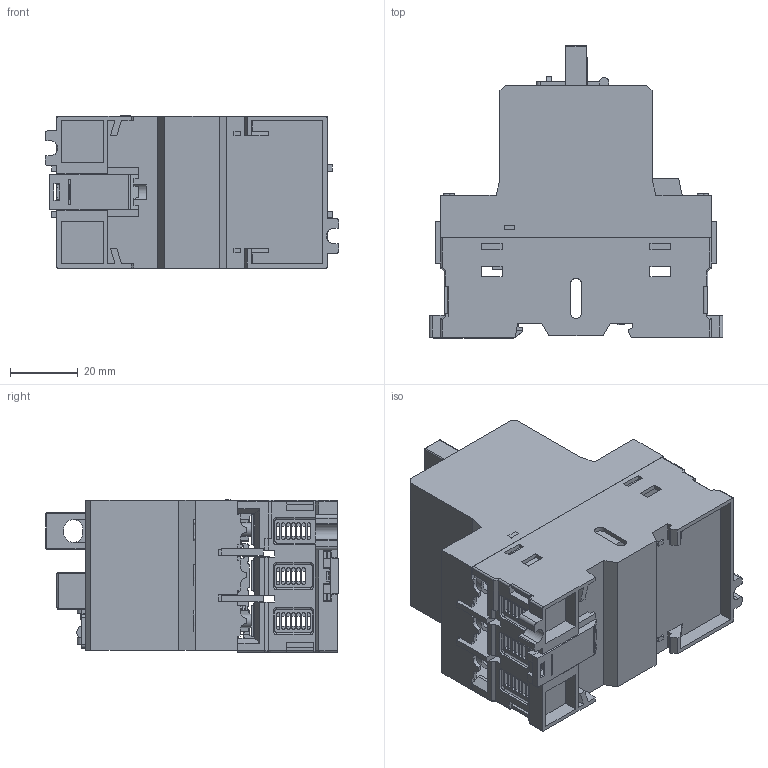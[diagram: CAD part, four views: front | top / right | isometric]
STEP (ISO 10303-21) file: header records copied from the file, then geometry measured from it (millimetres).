
FILE_DESCRIPTION((''),'2; 1');
FILE_NAME('','2026-03-27T11:21:00',(''),(''),'CST STEP Exporter V1.0','Unknown','');
FILE_SCHEMA(('CONFIG_CONTROL_DESIGN'));
Length unit declared in the file: metre
Assembly tree (36 placements, depth 2):
  (unnamed)
    (unnamed)
    (unnamed)
    (unnamed)
    (unnamed)
    (unnamed)
    (unnamed)
    (unnamed)
    (unnamed)
    (unnamed)
    (unnamed)
    (unnamed)
    (unnamed)
    (unnamed)
    (unnamed)
    (unnamed)
    (unnamed)
    (unnamed)
    (unnamed)
    (unnamed)
    (unnamed)
    (unnamed)
    (unnamed)
    (unnamed)
    (unnamed)
    (unnamed)
    (unnamed)
    (unnamed)
    (unnamed)
    (unnamed)
    (unnamed)
    (unnamed)
    (unnamed)
    (unnamed)
    (unnamed)
    (unnamed)
    (unnamed)
Bounding box: 87 x 86.49 x 45.1 mm (x, y, z)
Surface area: 110047.7 mm2 (no closed solid volume)
Topology: 0 solids, 36 shells, 1000 faces, 4059 edges, 2997 vertices
Faces by surface type: plane 703, cylinder 241, extrusion 31, torus 20, sphere 4, bspline 1
Full cylindrical faces by diameter (mm): 2 x2, 3.2 x1, 3.5 x2, 4 x4, 4.8 x1, 7.5 x6, 9.5 x6
Entity records: 52329 total; most frequent: CARTESIAN_POINT 11379, ORIENTED_EDGE 6340, DIRECTION 6170, EDGE_CURVE 4020, VERTEX_POINT 2987, VECTOR 2952, LINE 2921, AXIS2_PLACEMENT_3D 1609
